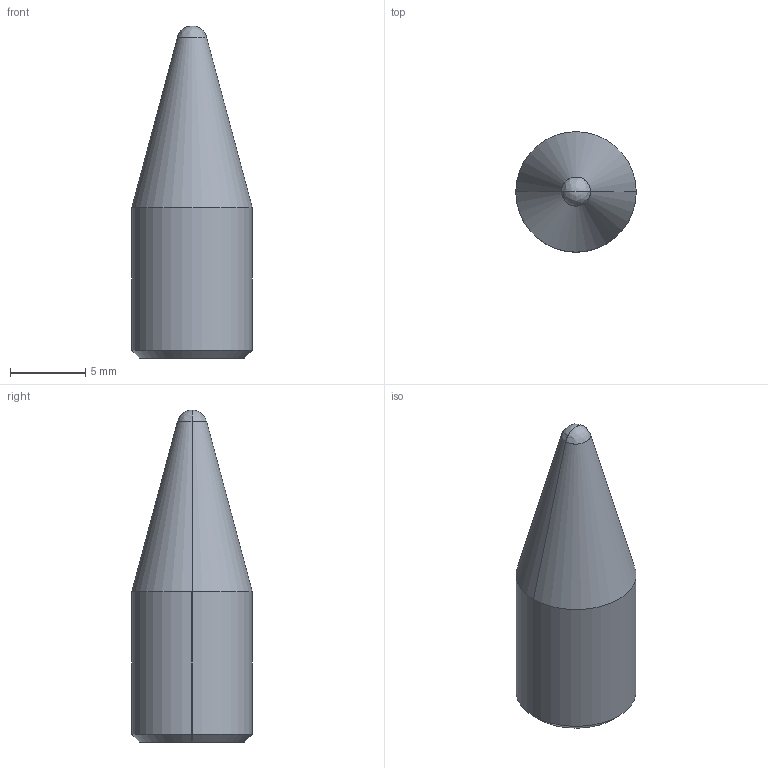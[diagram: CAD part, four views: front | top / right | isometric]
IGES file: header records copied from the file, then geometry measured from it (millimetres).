
Global section: file name: E:\UnigraphicsGraphicData\MISUMI_PRESS-PARTS\IGES\3d_snst8-b10_03103_r00.igs; native system: NX V5.0; preprocessor: UGS NX IGES V5.0; author: MISUMI; date: 20110105.162853; units: millimetre
Bounding box: 8 x 8 x 22.06 mm (x, y, z)
Surface area: 638.7 mm2 (no closed solid volume)
Topology: 0 solids, 0 shells, 12 faces, 64 edges, 62 vertices
Faces by surface type: bspline 12
